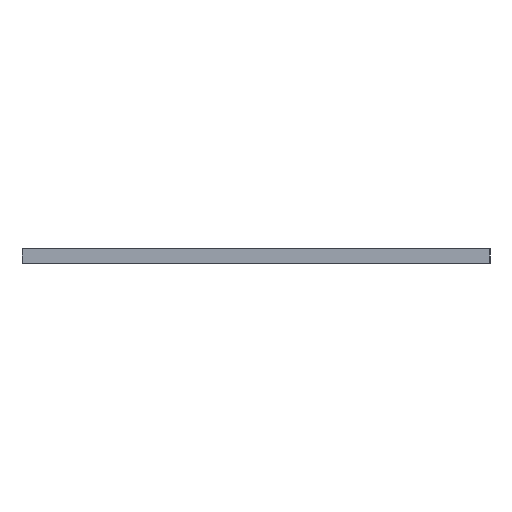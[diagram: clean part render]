
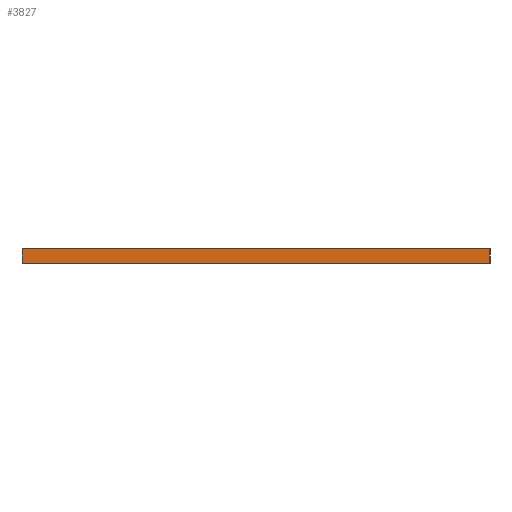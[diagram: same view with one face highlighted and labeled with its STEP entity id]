
A CAD part, left-side view. The second image highlights one B-rep face of the part: STEP entity #3827.
In plain terms, the highlighted planar face has unit normal (-1, 0, 0).
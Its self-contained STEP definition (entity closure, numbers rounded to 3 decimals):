
#1809=CARTESIAN_POINT('Vertex',(0.,-32.,0.)) ;
#1812=CARTESIAN_POINT('Line Origine',(0.,0.,0.)) ;
#1816=CARTESIAN_POINT('Vertex',(0.,32.,0.)) ;
#3654=CARTESIAN_POINT('Vertex',(0.,32.,2.)) ;
#3657=CARTESIAN_POINT('Line Origine',(0.,0.,2.)) ;
#3661=CARTESIAN_POINT('Vertex',(0.,-32.,2.)) ;
#3806=CARTESIAN_POINT('Axis2P3D Location',(0.,-32.,2.)) ;
#3811=CARTESIAN_POINT('Line Origine',(0.,-32.,1.)) ;
#3816=CARTESIAN_POINT('Line Origine',(0.,32.,1.)) ;
#1813=DIRECTION('Vector Direction',(0.,-1.,0.)) ;
#3658=DIRECTION('Vector Direction',(0.,-1.,0.)) ;
#3807=DIRECTION('Axis2P3D Direction',(-1.,0.,0.)) ;
#3808=DIRECTION('Axis2P3D XDirection',(0.,1.,0.)) ;
#3812=DIRECTION('Vector Direction',(0.,0.,-1.)) ;
#3817=DIRECTION('Vector Direction',(0.,0.,-1.)) ;
#3809=AXIS2_PLACEMENT_3D('Plane Axis2P3D',#3806,#3807,#3808) ;
#3822=ORIENTED_EDGE('',*,*,#1818,.T.) ;
#3823=ORIENTED_EDGE('',*,*,#3815,.F.) ;
#3824=ORIENTED_EDGE('',*,*,#3663,.F.) ;
#3825=ORIENTED_EDGE('',*,*,#3820,.T.) ;
#1814=VECTOR('Line Direction',#1813,1.) ;
#3659=VECTOR('Line Direction',#3658,1.) ;
#3813=VECTOR('Line Direction',#3812,1.) ;
#3818=VECTOR('Line Direction',#3817,1.) ;
#3827=ADVANCED_FACE('',(#3826),#3810,.T.) ;
#1818=EDGE_CURVE('',#1817,#1810,#1815,.T.) ;
#3663=EDGE_CURVE('',#3655,#3662,#3660,.T.) ;
#3815=EDGE_CURVE('',#3662,#1810,#3814,.T.) ;
#3820=EDGE_CURVE('',#3655,#1817,#3819,.T.) ;
#3821=EDGE_LOOP('',(#3822,#3823,#3824,#3825)) ;
#3826=FACE_OUTER_BOUND('',#3821,.T.) ;
#1815=LINE('Line',#1812,#1814) ;
#3660=LINE('Line',#3657,#3659) ;
#3814=LINE('Line',#3811,#3813) ;
#3819=LINE('Line',#3816,#3818) ;
#3810=PLANE('Plane',#3809) ;
#1810=VERTEX_POINT('',#1809) ;
#1817=VERTEX_POINT('',#1816) ;
#3655=VERTEX_POINT('',#3654) ;
#3662=VERTEX_POINT('',#3661) ;
